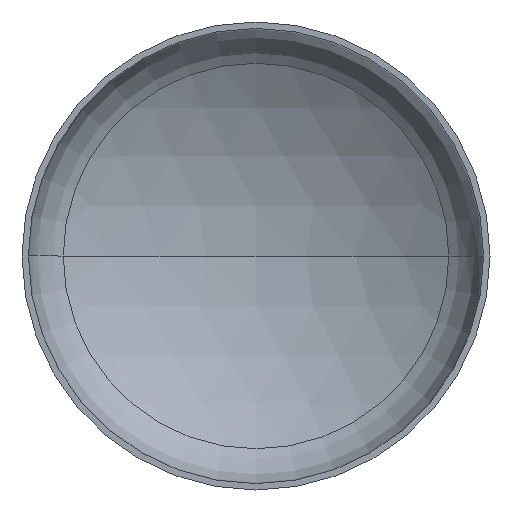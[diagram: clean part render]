
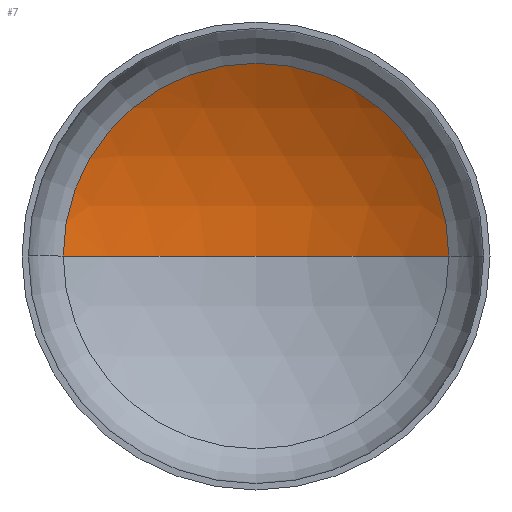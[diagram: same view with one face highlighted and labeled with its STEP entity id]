
A CAD part, front view. The second image highlights one B-rep face of the part: STEP entity #7.
In plain terms, the highlighted spherical face has radius 2400 mm.
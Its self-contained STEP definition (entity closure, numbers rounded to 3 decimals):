
#7 = ADVANCED_FACE ( 'NONE', ( #176 ), #96, .F. ) ;
#11 = AXIS2_PLACEMENT_3D ( 'NONE', #249, #289, #293 ) ;
#12 = AXIS2_PLACEMENT_3D ( 'NONE', #128, #327, #61 ) ;
#21 = AXIS2_PLACEMENT_3D ( 'NONE', #206, #147, #178 ) ;
#39 = CARTESIAN_POINT ( 'NONE',  ( 0., -1533.009, 0. ) ) ;
#48 = AXIS2_PLACEMENT_3D ( 'NONE', #39, #398, #397 ) ;
#61 = DIRECTION ( 'NONE',  ( -1., 0., 0. ) ) ;
#78 = VERTEX_POINT ( 'NONE', #86 ) ;
#86 = CARTESIAN_POINT ( 'NONE',  ( -1235.876, 524.322, 0. ) ) ;
#96 = SPHERICAL_SURFACE ( 'NONE', #48, 2400. ) ;
#104 = EDGE_LOOP ( 'NONE', ( #348, #298, #207 ) ) ;
#117 = CARTESIAN_POINT ( 'NONE',  ( 0., 866.991, 0. ) ) ;
#128 = CARTESIAN_POINT ( 'NONE',  ( 0., -1533.009, 0. ) ) ;
#147 = DIRECTION ( 'NONE',  ( 0., -1., 0. ) ) ;
#176 = FACE_OUTER_BOUND ( 'NONE', #104, .T. ) ;
#178 = DIRECTION ( 'NONE',  ( 1., 0., 0. ) ) ;
#180 = CIRCLE ( 'NONE', #11, 2400. ) ;
#197 = CIRCLE ( 'NONE', #21, 1235.876 ) ;
#203 = VERTEX_POINT ( 'NONE', #266 ) ;
#206 = CARTESIAN_POINT ( 'NONE',  ( 0., 524.322, 0. ) ) ;
#207 = ORIENTED_EDGE ( 'NONE', *, *, #321, .T. ) ;
#249 = CARTESIAN_POINT ( 'NONE',  ( 0., -1533.009, 0. ) ) ;
#266 = CARTESIAN_POINT ( 'NONE',  ( 1235.876, 524.322, 0. ) ) ;
#289 = DIRECTION ( 'NONE',  ( 0., 0., 1. ) ) ;
#290 = VERTEX_POINT ( 'NONE', #117 ) ;
#293 = DIRECTION ( 'NONE',  ( 1., 0., 0. ) ) ;
#298 = ORIENTED_EDGE ( 'NONE', *, *, #324, .T. ) ;
#321 = EDGE_CURVE ( 'NONE', #203, #78, #197, .T. ) ;
#324 = EDGE_CURVE ( 'NONE', #290, #203, #336, .T. ) ;
#326 = EDGE_CURVE ( 'NONE', #290, #78, #180, .T. ) ;
#327 = DIRECTION ( 'NONE',  ( 0., 0., -1. ) ) ;
#336 = CIRCLE ( 'NONE', #12, 2400. ) ;
#348 = ORIENTED_EDGE ( 'NONE', *, *, #326, .F. ) ;
#397 = DIRECTION ( 'NONE',  ( -1., 0., 0. ) ) ;
#398 = DIRECTION ( 'NONE',  ( 0., 0., -1. ) ) ;
